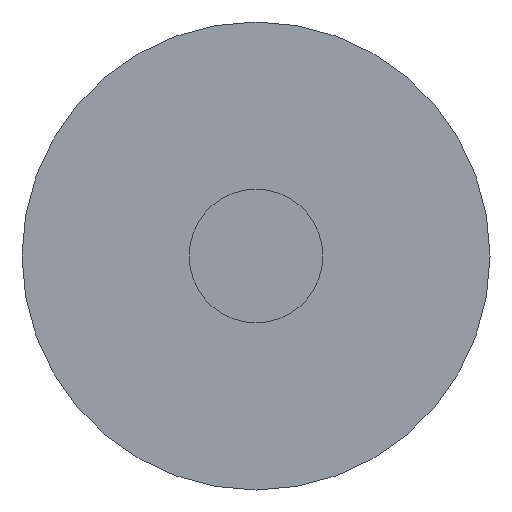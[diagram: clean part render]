
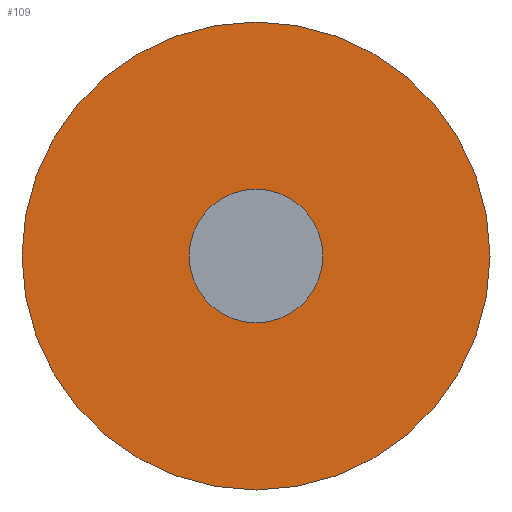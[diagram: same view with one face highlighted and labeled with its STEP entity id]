
A CAD part, left-side view. The second image highlights one B-rep face of the part: STEP entity #109.
In plain terms, the highlighted planar face has unit normal (-1, 0, 0).
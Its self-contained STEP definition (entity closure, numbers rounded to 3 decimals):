
#31 = CYLINDRICAL_SURFACE('',#32,3.5);
#32 = AXIS2_PLACEMENT_3D('',#33,#34,#35);
#33 = CARTESIAN_POINT('',(54.,-43.163,-79.032));
#34 = DIRECTION('',(1.,0.,0.));
#35 = DIRECTION('',(-0.,0.,1.));
#56 = VERTEX_POINT('',#57);
#57 = CARTESIAN_POINT('',(54.,-43.163,-75.532));
#78 = EDGE_CURVE('',#56,#56,#79,.T.);
#79 = SURFACE_CURVE('',#80,(#85,#92),.PCURVE_S1.);
#80 = CIRCLE('',#81,3.5);
#81 = AXIS2_PLACEMENT_3D('',#82,#83,#84);
#82 = CARTESIAN_POINT('',(54.,-43.163,-79.032));
#83 = DIRECTION('',(1.,0.,0.));
#84 = DIRECTION('',(-0.,0.,1.));
#85 = PCURVE('',#31,#86);
#86 = DEFINITIONAL_REPRESENTATION('',(#87),#91);
#87 = LINE('',#88,#89);
#88 = CARTESIAN_POINT('',(0.,0.));
#89 = VECTOR('',#90,1.);
#90 = DIRECTION('',(1.,0.));
#91 = ( GEOMETRIC_REPRESENTATION_CONTEXT(2) 
PARAMETRIC_REPRESENTATION_CONTEXT() REPRESENTATION_CONTEXT('2D SPACE',''
  ) );
#92 = PCURVE('',#93,#98);
#93 = PLANE('',#94);
#94 = AXIS2_PLACEMENT_3D('',#95,#96,#97);
#95 = CARTESIAN_POINT('',(54.,-43.163,-79.032));
#96 = DIRECTION('',(1.,0.,0.));
#97 = DIRECTION('',(-0.,0.,1.));
#98 = DEFINITIONAL_REPRESENTATION('',(#99),#103);
#99 = CIRCLE('',#100,3.5);
#100 = AXIS2_PLACEMENT_2D('',#101,#102);
#101 = CARTESIAN_POINT('',(0.,0.));
#102 = DIRECTION('',(1.,0.));
#103 = ( GEOMETRIC_REPRESENTATION_CONTEXT(2) 
PARAMETRIC_REPRESENTATION_CONTEXT() REPRESENTATION_CONTEXT('2D SPACE',''
  ) );
#109 = ADVANCED_FACE('',(#110,#113),#93,.F.);
#110 = FACE_BOUND('',#111,.F.);
#111 = EDGE_LOOP('',(#112));
#112 = ORIENTED_EDGE('',*,*,#78,.T.);
#113 = FACE_BOUND('',#114,.F.);
#114 = EDGE_LOOP('',(#115));
#115 = ORIENTED_EDGE('',*,*,#116,.F.);
#116 = EDGE_CURVE('',#117,#117,#119,.T.);
#117 = VERTEX_POINT('',#118);
#118 = CARTESIAN_POINT('',(54.,-43.163,-78.032));
#119 = SURFACE_CURVE('',#120,(#125,#132),.PCURVE_S1.);
#120 = CIRCLE('',#121,1.);
#121 = AXIS2_PLACEMENT_3D('',#122,#123,#124);
#122 = CARTESIAN_POINT('',(54.,-43.163,-79.032));
#123 = DIRECTION('',(1.,0.,0.));
#124 = DIRECTION('',(-0.,0.,1.));
#125 = PCURVE('',#93,#126);
#126 = DEFINITIONAL_REPRESENTATION('',(#127),#131);
#127 = CIRCLE('',#128,1.);
#128 = AXIS2_PLACEMENT_2D('',#129,#130);
#129 = CARTESIAN_POINT('',(0.,0.));
#130 = DIRECTION('',(1.,0.));
#131 = ( GEOMETRIC_REPRESENTATION_CONTEXT(2) 
PARAMETRIC_REPRESENTATION_CONTEXT() REPRESENTATION_CONTEXT('2D SPACE',''
  ) );
#132 = PCURVE('',#133,#138);
#133 = CYLINDRICAL_SURFACE('',#134,1.);
#134 = AXIS2_PLACEMENT_3D('',#135,#136,#137);
#135 = CARTESIAN_POINT('',(50.5,-43.163,-79.032));
#136 = DIRECTION('',(1.,0.,0.));
#137 = DIRECTION('',(-0.,0.,1.));
#138 = DEFINITIONAL_REPRESENTATION('',(#139),#143);
#139 = LINE('',#140,#141);
#140 = CARTESIAN_POINT('',(0.,3.5));
#141 = VECTOR('',#142,1.);
#142 = DIRECTION('',(1.,0.));
#143 = ( GEOMETRIC_REPRESENTATION_CONTEXT(2) 
PARAMETRIC_REPRESENTATION_CONTEXT() REPRESENTATION_CONTEXT('2D SPACE',''
  ) );
